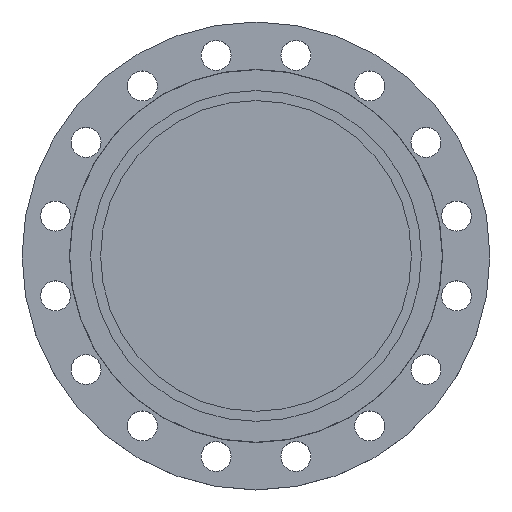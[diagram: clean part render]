
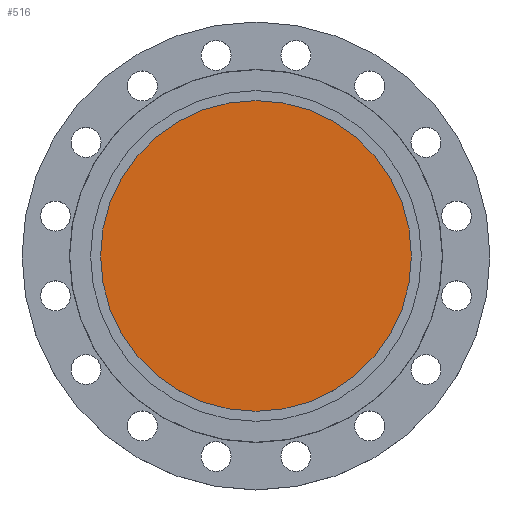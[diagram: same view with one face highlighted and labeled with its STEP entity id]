
A CAD part, top view. The second image highlights one B-rep face of the part: STEP entity #516.
In plain terms, the highlighted planar face has unit normal (0, 0, 1).
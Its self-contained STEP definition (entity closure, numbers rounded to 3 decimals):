
#34 = DIRECTION ( 'NONE',  ( 1., 0., 0. ) ) ;
#36 = DIRECTION ( 'NONE',  ( 0., 0., 1. ) ) ;
#37 = CARTESIAN_POINT ( 'NONE',  ( 0., 0., 0. ) ) ;
#39 = PLANE ( 'NONE',  #1472 ) ;
#45 = FACE_OUTER_BOUND ( 'NONE', #280, .T. ) ;
#64 = CARTESIAN_POINT ( 'NONE',  ( -171., 0., 0. ) ) ;
#87 = DIRECTION ( 'NONE',  ( -1., 0., 0. ) ) ;
#88 = DIRECTION ( 'NONE',  ( 0., 0., -1. ) ) ;
#89 = CARTESIAN_POINT ( 'NONE',  ( 0., 0., 0. ) ) ;
#144 = CIRCLE ( 'NONE', #1204, 171. ) ;
#177 = CARTESIAN_POINT ( 'NONE',  ( 171., 0., 0. ) ) ;
#188 = DIRECTION ( 'NONE',  ( 0., 0., -1. ) ) ;
#280 = EDGE_LOOP ( 'NONE', ( #522, #1167 ) ) ;
#354 = VERTEX_POINT ( 'NONE', #177 ) ;
#457 = EDGE_CURVE ( 'NONE', #1537, #354, #1442, .T. ) ;
#516 = ADVANCED_FACE ( 'NONE', ( #45 ), #39, .T. ) ;
#522 = ORIENTED_EDGE ( 'NONE', *, *, #457, .F. ) ;
#726 = DIRECTION ( 'NONE',  ( -1., 0., 0. ) ) ;
#738 = AXIS2_PLACEMENT_3D ( 'NONE', #89, #88, #87 ) ;
#991 = CARTESIAN_POINT ( 'NONE',  ( 0., 0., 0. ) ) ;
#1167 = ORIENTED_EDGE ( 'NONE', *, *, #1640, .F. ) ;
#1204 = AXIS2_PLACEMENT_3D ( 'NONE', #991, #188, #726 ) ;
#1442 = CIRCLE ( 'NONE', #738, 171. ) ;
#1472 = AXIS2_PLACEMENT_3D ( 'NONE', #37, #36, #34 ) ;
#1537 = VERTEX_POINT ( 'NONE', #64 ) ;
#1640 = EDGE_CURVE ( 'NONE', #354, #1537, #144, .T. ) ;
